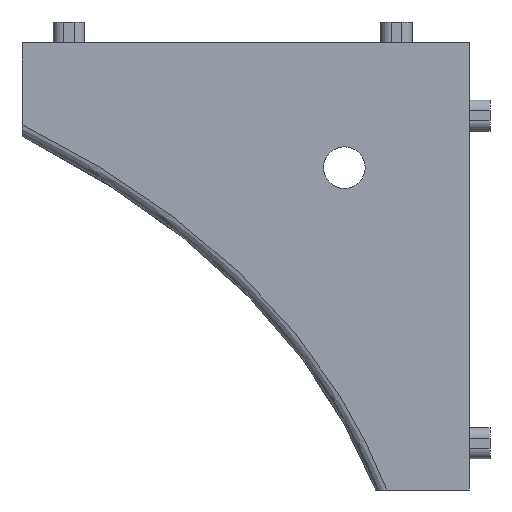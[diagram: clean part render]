
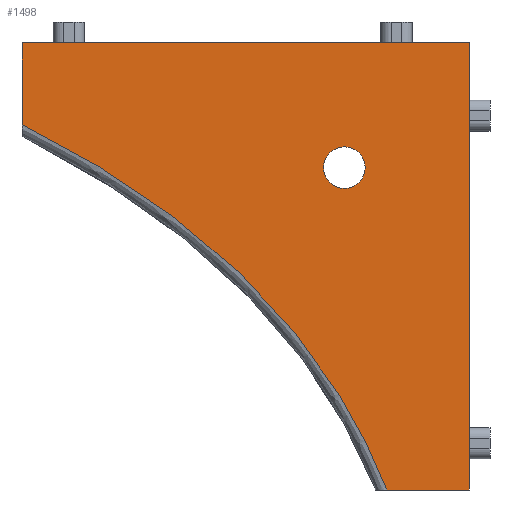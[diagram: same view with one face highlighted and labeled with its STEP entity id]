
A CAD part, left-side view. The second image highlights one B-rep face of the part: STEP entity #1498.
In plain terms, the highlighted planar face has unit normal (-1, 0, 0).
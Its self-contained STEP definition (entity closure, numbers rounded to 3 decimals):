
#187 = DIRECTION ( 'NONE',  ( 0., -1., 0. ) ) ;
#252 = CARTESIAN_POINT ( 'NONE',  ( -17.019, 22.692, 0.644 ) ) ;
#266 = CARTESIAN_POINT ( 'NONE',  ( -17.019, -3.025, -19.353 ) ) ;
#342 = DIRECTION ( 'NONE',  ( 0., -1., 0. ) ) ;
#525 = CARTESIAN_POINT ( 'NONE',  ( -17.019, -19.359, -34. ) ) ;
#597 = CARTESIAN_POINT ( 'NONE',  ( -17.019, -5.359, -3. ) ) ;
#618 = EDGE_CURVE ( 'NONE', #1029, #2314, #1370, .T. ) ;
#672 = LINE ( 'NONE', #2679, #4550 ) ;
#678 = CARTESIAN_POINT ( 'NONE',  ( -17.019, 21.277, -0.083 ) ) ;
#696 = CARTESIAN_POINT ( 'NONE',  ( -17.019, -6.098, -23.644 ) ) ;
#702 = CARTESIAN_POINT ( 'NONE',  ( -17.019, -7.359, -3. ) ) ;
#724 = DIRECTION ( 'NONE',  ( -1., 0., 0. ) ) ;
#894 = B_SPLINE_CURVE_WITH_KNOTS ( 'NONE', 3,
 ( #5210, #2338, #252, #3162, #678, #3577, #1105, #3992, #1535, #4400, #1939, #4811, #2354, #5231, #2763, #266, #3186, #696, #3597, #1118, #4013, #1550, #4413, #1959, #4824, #2375, #5242 ),
 .UNSPECIFIED., .F., .F.,
 ( 4, 2, 2, 2, 2, 2, 2, 2, 2, 2, 2, 1, 2, 4 ),
 ( 0., 0.002, 0.003, 0.006, 0.013, 0.025, 0.029, 0.032, 0.038, 0.041, 0.044, 0.048, 0.049, 0.051 ),
 .UNSPECIFIED. ) ;
#913 = CARTESIAN_POINT ( 'NONE',  ( -17.019, -19.359, 9. ) ) ;
#943 = FACE_OUTER_BOUND ( 'NONE', #3090, .T. ) ;
#949 = ORIENTED_EDGE ( 'NONE', *, *, #4733, .F. ) ;
#989 = CARTESIAN_POINT ( 'NONE',  ( -17.019, 23.641, 1.117 ) ) ;
#1029 = VERTEX_POINT ( 'NONE', #4241 ) ;
#1105 = CARTESIAN_POINT ( 'NONE',  ( -17.019, 18.945, -1.339 ) ) ;
#1118 = CARTESIAN_POINT ( 'NONE',  ( -17.019, -7.769, -26.353 ) ) ;
#1122 = DIRECTION ( 'NONE',  ( 0., -1., 0. ) ) ;
#1124 = EDGE_CURVE ( 'NONE', #2114, #4054, #672, .T. ) ;
#1169 = ORIENTED_EDGE ( 'NONE', *, *, #618, .F. ) ;
#1370 = LINE ( 'NONE', #2834, #4651 ) ;
#1392 = DIRECTION ( 'NONE',  ( 0., 1., 0. ) ) ;
#1421 = AXIS2_PLACEMENT_3D ( 'NONE', #702, #3601, #1122 ) ;
#1498 = ADVANCED_FACE ( 'NONE', ( #5067, #943 ), #3447, .F. ) ;
#1535 = CARTESIAN_POINT ( 'NONE',  ( -17.019, 14.383, -4.034 ) ) ;
#1550 = CARTESIAN_POINT ( 'NONE',  ( -17.019, -9.283, -29.154 ) ) ;
#1558 = DIRECTION ( 'NONE',  ( 0., 0., -1. ) ) ;
#1596 = VERTEX_POINT ( 'NONE', #597 ) ;
#1602 = ORIENTED_EDGE ( 'NONE', *, *, #1964, .T. ) ;
#1879 = LINE ( 'NONE', #913, #5038 ) ;
#1939 = CARTESIAN_POINT ( 'NONE',  ( -17.019, 5.778, -10.202 ) ) ;
#1959 = CARTESIAN_POINT ( 'NONE',  ( -17.019, -10.627, -32.036 ) ) ;
#1964 = EDGE_CURVE ( 'NONE', #3407, #2114, #894, .T. ) ;
#2114 = VERTEX_POINT ( 'NONE', #3686 ) ;
#2164 = LINE ( 'NONE', #2366, #4220 ) ;
#2256 = ORIENTED_EDGE ( 'NONE', *, *, #3669, .T. ) ;
#2314 = VERTEX_POINT ( 'NONE', #3005 ) ;
#2338 = CARTESIAN_POINT ( 'NONE',  ( -17.019, 23.166, 0.881 ) ) ;
#2354 = CARTESIAN_POINT ( 'NONE',  ( -17.019, 1.196, -14.621 ) ) ;
#2355 = ORIENTED_EDGE ( 'NONE', *, *, #1124, .T. ) ;
#2366 = CARTESIAN_POINT ( 'NONE',  ( -17.019, 23.641, 9. ) ) ;
#2375 = CARTESIAN_POINT ( 'NONE',  ( -17.019, -11.24, -33.506 ) ) ;
#2423 = ORIENTED_EDGE ( 'NONE', *, *, #5152, .F. ) ;
#2679 = CARTESIAN_POINT ( 'NONE',  ( -17.019, -10.36, -34. ) ) ;
#2763 = CARTESIAN_POINT ( 'NONE',  ( -17.019, -0.968, -16.945 ) ) ;
#2834 = CARTESIAN_POINT ( 'NONE',  ( -17.019, 23.641, 9. ) ) ;
#3005 = CARTESIAN_POINT ( 'NONE',  ( -17.019, -19.359, 9. ) ) ;
#3011 = CARTESIAN_POINT ( 'NONE',  ( -17.019, -9.359, -3. ) ) ;
#3090 = EDGE_LOOP ( 'NONE', ( #2256, #1602, #2355, #2423, #1169 ) ) ;
#3162 = CARTESIAN_POINT ( 'NONE',  ( -17.019, 21.747, 0.162 ) ) ;
#3186 = CARTESIAN_POINT ( 'NONE',  ( -17.019, -4.31, -21.026 ) ) ;
#3215 = CARTESIAN_POINT ( 'NONE',  ( -17.019, -7.359, -3. ) ) ;
#3307 = EDGE_LOOP ( 'NONE', ( #4482, #949 ) ) ;
#3394 = DIRECTION ( 'NONE',  ( 0., 0., -1. ) ) ;
#3407 = VERTEX_POINT ( 'NONE', #989 ) ;
#3447 = PLANE ( 'NONE',  #5283 ) ;
#3522 = AXIS2_PLACEMENT_3D ( 'NONE', #3215, #724, #3633 ) ;
#3577 = CARTESIAN_POINT ( 'NONE',  ( -17.019, 19.873, -0.828 ) ) ;
#3597 = CARTESIAN_POINT ( 'NONE',  ( -17.019, -6.671, -24.535 ) ) ;
#3601 = DIRECTION ( 'NONE',  ( -1., 0., 0. ) ) ;
#3633 = DIRECTION ( 'NONE',  ( 0., -1., 0. ) ) ;
#3669 = EDGE_CURVE ( 'NONE', #1029, #3407, #2164, .T. ) ;
#3686 = CARTESIAN_POINT ( 'NONE',  ( -17.019, -11.436, -34. ) ) ;
#3689 = CIRCLE ( 'NONE', #3522, 2. ) ;
#3863 = DIRECTION ( 'NONE',  ( 1., 0., 0. ) ) ;
#3952 = CIRCLE ( 'NONE', #1421, 2. ) ;
#3992 = CARTESIAN_POINT ( 'NONE',  ( -17.019, 16.187, -2.919 ) ) ;
#4013 = CARTESIAN_POINT ( 'NONE',  ( -17.019, -8.292, -27.279 ) ) ;
#4054 = VERTEX_POINT ( 'NONE', #525 ) ;
#4220 = VECTOR ( 'NONE', #1558, 1000. ) ;
#4241 = CARTESIAN_POINT ( 'NONE',  ( -17.019, 23.641, 9. ) ) ;
#4249 = EDGE_CURVE ( 'NONE', #5194, #1596, #3952, .T. ) ;
#4400 = CARTESIAN_POINT ( 'NONE',  ( -17.019, 9.098, -7.584 ) ) ;
#4413 = CARTESIAN_POINT ( 'NONE',  ( -17.019, -9.986, -30.58 ) ) ;
#4482 = ORIENTED_EDGE ( 'NONE', *, *, #4249, .F. ) ;
#4550 = VECTOR ( 'NONE', #187, 1000. ) ;
#4651 = VECTOR ( 'NONE', #342, 1000. ) ;
#4733 = EDGE_CURVE ( 'NONE', #1596, #5194, #3689, .T. ) ;
#4811 = CARTESIAN_POINT ( 'NONE',  ( -17.019, 1.947, -13.867 ) ) ;
#4824 = CARTESIAN_POINT ( 'NONE',  ( -17.019, -11.041, -33.013 ) ) ;
#5038 = VECTOR ( 'NONE', #3394, 1000. ) ;
#5067 = FACE_BOUND ( 'NONE', #3307, .T. ) ;
#5079 = CARTESIAN_POINT ( 'NONE',  ( -17.019, 23.641, 9. ) ) ;
#5152 = EDGE_CURVE ( 'NONE', #2314, #4054, #1879, .T. ) ;
#5194 = VERTEX_POINT ( 'NONE', #3011 ) ;
#5210 = CARTESIAN_POINT ( 'NONE',  ( -17.019, 23.641, 1.117 ) ) ;
#5231 = CARTESIAN_POINT ( 'NONE',  ( -17.019, -0.261, -16.159 ) ) ;
#5242 = CARTESIAN_POINT ( 'NONE',  ( -17.019, -11.436, -34. ) ) ;
#5283 = AXIS2_PLACEMENT_3D ( 'NONE', #5079, #3863, #1392 ) ;
